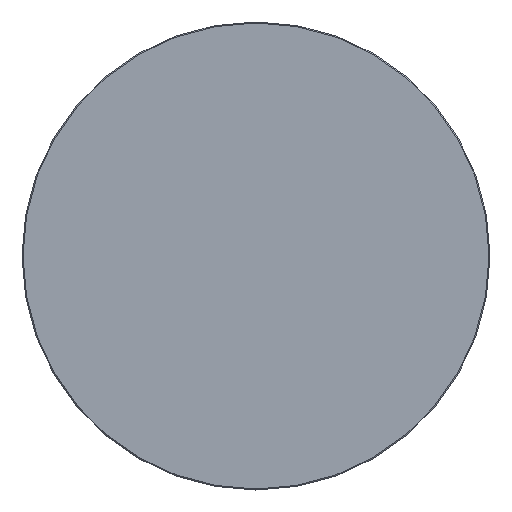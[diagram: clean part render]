
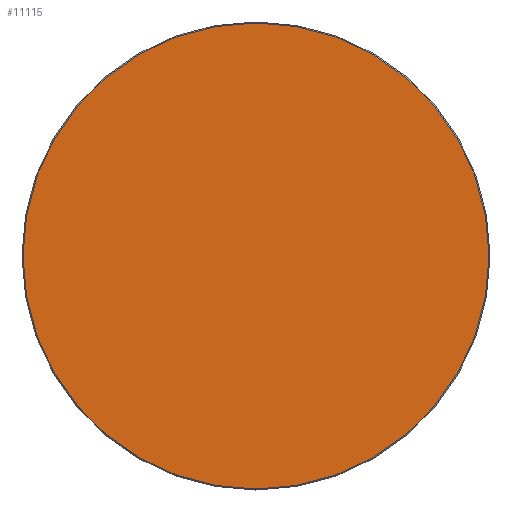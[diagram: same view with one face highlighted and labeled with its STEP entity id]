
A CAD part, top view. The second image highlights one B-rep face of the part: STEP entity #11115.
In plain terms, the highlighted planar face has unit normal (0, 0, 1).
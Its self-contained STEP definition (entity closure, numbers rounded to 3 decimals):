
#11040=CARTESIAN_POINT('',(0.,0.,20.));
#11041=DIRECTION('',(1.,0.,0.));
#11042=DIRECTION('',(0.,0.,1.));
#11043=AXIS2_PLACEMENT_3D('',#11040,#11042,#11041);
#11044=PLANE('',#11043);
#11045=CARTESIAN_POINT('',(-0.5,-348.5,20.));
#11046=VERTEX_POINT('',#11045);
#11047=CARTESIAN_POINT('',(0.5,-348.5,20.));
#11048=VERTEX_POINT('',#11047);
#11049=CARTESIAN_POINT('',(-0.5,-348.5,20.));
#11050=DIRECTION('',(1.,0.,0.));
#11051=VECTOR('',#11050,1.);
#11052=LINE('',#11049,#11051);
#11053=EDGE_CURVE('',#11046,#11048,#11052,.T.);
#11054=ORIENTED_EDGE('E105',*,*,#11053,.T.);
#11055=CARTESIAN_POINT('',(348.5,-0.5,20.));
#11056=VERTEX_POINT('',#11055);
#11057=CARTESIAN_POINT('',(0.5,-0.5,20.));
#11058=DIRECTION('',(0.,-1.,0.));
#11059=DIRECTION('',(0.,-0.,1.));
#11060=AXIS2_PLACEMENT_3D('',#11057,#11059,#11058);
#11061=CIRCLE('',#11060,348.);
#11062=EDGE_CURVE('',#11048,#11056,#11061,.T.);
#11063=ORIENTED_EDGE('E107',*,*,#11062,.T.);
#11064=CARTESIAN_POINT('',(348.5,0.5,20.));
#11065=VERTEX_POINT('',#11064);
#11066=CARTESIAN_POINT('',(348.5,-0.5,20.));
#11067=DIRECTION('',(0.,1.,0.));
#11068=VECTOR('',#11067,1.);
#11069=LINE('',#11066,#11068);
#11070=EDGE_CURVE('',#11056,#11065,#11069,.T.);
#11071=ORIENTED_EDGE('E109',*,*,#11070,.T.);
#11072=CARTESIAN_POINT('',(0.5,348.5,20.));
#11073=VERTEX_POINT('',#11072);
#11074=CARTESIAN_POINT('',(0.5,0.5,20.));
#11075=DIRECTION('',(1.,0.,0.));
#11076=DIRECTION('',(0.,0.,1.));
#11077=AXIS2_PLACEMENT_3D('',#11074,#11076,#11075);
#11078=CIRCLE('',#11077,348.);
#11079=EDGE_CURVE('',#11065,#11073,#11078,.T.);
#11080=ORIENTED_EDGE('E111',*,*,#11079,.T.);
#11081=CARTESIAN_POINT('',(-0.5,348.5,20.));
#11082=VERTEX_POINT('',#11081);
#11083=CARTESIAN_POINT('',(0.5,348.5,20.));
#11084=DIRECTION('',(-1.,0.,0.));
#11085=VECTOR('',#11084,1.);
#11086=LINE('',#11083,#11085);
#11087=EDGE_CURVE('',#11073,#11082,#11086,.T.);
#11088=ORIENTED_EDGE('E113',*,*,#11087,.T.);
#11089=CARTESIAN_POINT('',(-348.5,0.5,20.));
#11090=VERTEX_POINT('',#11089);
#11091=CARTESIAN_POINT('',(-0.5,0.5,20.));
#11092=DIRECTION('',(0.,1.,0.));
#11093=DIRECTION('',(0.,0.,1.));
#11094=AXIS2_PLACEMENT_3D('',#11091,#11093,#11092);
#11095=CIRCLE('',#11094,348.);
#11096=EDGE_CURVE('',#11082,#11090,#11095,.T.);
#11097=ORIENTED_EDGE('E115',*,*,#11096,.T.);
#11098=CARTESIAN_POINT('',(-348.5,-0.5,20.));
#11099=VERTEX_POINT('',#11098);
#11100=CARTESIAN_POINT('',(-348.5,0.5,20.));
#11101=DIRECTION('',(0.,-1.,0.));
#11102=VECTOR('',#11101,1.);
#11103=LINE('',#11100,#11102);
#11104=EDGE_CURVE('',#11090,#11099,#11103,.T.);
#11105=ORIENTED_EDGE('E117',*,*,#11104,.T.);
#11106=CARTESIAN_POINT('',(-0.5,-0.5,20.));
#11107=DIRECTION('',(-1.,0.,0.));
#11108=DIRECTION('',(0.,0.,1.));
#11109=AXIS2_PLACEMENT_3D('',#11106,#11108,#11107);
#11110=CIRCLE('',#11109,348.);
#11111=EDGE_CURVE('',#11099,#11046,#11110,.T.);
#11112=ORIENTED_EDGE('E119',*,*,#11111,.T.);
#11113=EDGE_LOOP('',(#11054,#11063,#11071,#11080,#11088,#11097,#11105,#11112));
#11114=FACE_OUTER_BOUND('',#11113,.T.);
#11115=ADVANCED_FACE('F2',(#11114),#11044,.T.);
